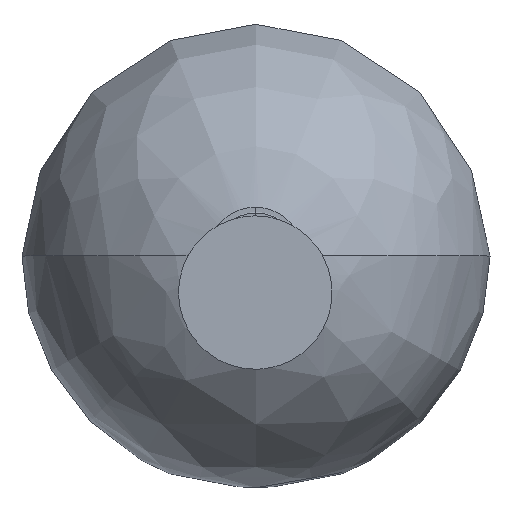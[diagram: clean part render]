
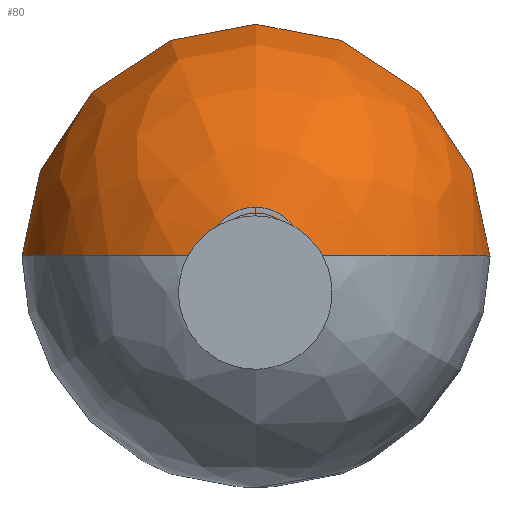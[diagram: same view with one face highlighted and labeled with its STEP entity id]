
A CAD part, top view. The second image highlights one B-rep face of the part: STEP entity #80.
In plain terms, the highlighted free-form (B-spline) face has degree [2, 2] with [5, 5] control points.
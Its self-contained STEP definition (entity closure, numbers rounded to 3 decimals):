
#80=ADVANCED_FACE($,(#111),#389,.T.);
#111=FACE_OUTER_BOUND($,#142,.T.);
#142=EDGE_LOOP($,(#236,#237,#238,#239));
#236=ORIENTED_EDGE($,*,*,#310,.T.);
#237=ORIENTED_EDGE($,*,*,#309,.F.);
#238=ORIENTED_EDGE($,*,*,#311,.T.);
#239=ORIENTED_EDGE($,*,*,#307,.F.);
#307=EDGE_CURVE($,#356,#357,#435,.T.);
#309=EDGE_CURVE($,#358,#355,#437,.T.);
#310=EDGE_CURVE($,#356,#355,#438,.T.);
#311=EDGE_CURVE($,#358,#357,#439,.T.);
#355=VERTEX_POINT($,#1170);
#356=VERTEX_POINT($,#1171);
#357=VERTEX_POINT($,#1172);
#358=VERTEX_POINT($,#1173);
#389=(
BOUNDED_SURFACE()
B_SPLINE_SURFACE(2,2,((#1144,#1145,#1146,#1147,#1148),(#1149,#1150,#1151,
#1152,#1153),(#1154,#1155,#1156,#1157,#1158),(#1159,#1160,#1161,#1162,#1163),
(#1164,#1165,#1166,#1167,#1168)),.UNSPECIFIED.,.F.,.F.,.F.)
B_SPLINE_SURFACE_WITH_KNOTS((3,2,3),(3,2,3),(0.,124.819,249.638),
(0.,249.638,499.276),.UNSPECIFIED.)
GEOMETRIC_REPRESENTATION_ITEM()
RATIONAL_B_SPLINE_SURFACE(((1.,0.811,1.,0.811,1.),
(0.707,0.574,0.707,0.574,
0.707),(1.,0.811,1.,0.811,1.),(0.707,
0.574,0.707,0.574,0.707),
(1.,0.811,1.,0.811,1.)))
REPRESENTATION_ITEM($)
SURFACE()
);
#435=(
BOUNDED_CURVE()
B_SPLINE_CURVE(2,(#1094,#1095,#1096,#1097,#1098),.UNSPECIFIED.,.F.,.F.)
B_SPLINE_CURVE_WITH_KNOTS((3,2,3),(0.,249.638,499.276),
.UNSPECIFIED.)
CURVE()
GEOMETRIC_REPRESENTATION_ITEM()
RATIONAL_B_SPLINE_CURVE((1.,0.811,1.,0.811,1.))
REPRESENTATION_ITEM($)
);
#437=(
BOUNDED_CURVE()
B_SPLINE_CURVE(2,(#1104,#1105,#1106,#1107,#1108),.UNSPECIFIED.,.F.,.F.)
B_SPLINE_CURVE_WITH_KNOTS((3,2,3),(-499.276,-249.638,0.),
.UNSPECIFIED.)
CURVE()
GEOMETRIC_REPRESENTATION_ITEM()
RATIONAL_B_SPLINE_CURVE((1.,0.811,1.,0.811,1.))
REPRESENTATION_ITEM($)
);
#438=(
BOUNDED_CURVE()
B_SPLINE_CURVE(2,(#1109,#1110,#1111,#1112,#1113),.UNSPECIFIED.,.F.,.F.)
B_SPLINE_CURVE_WITH_KNOTS((3,2,3),(0.,124.819,249.638),
.UNSPECIFIED.)
CURVE()
GEOMETRIC_REPRESENTATION_ITEM()
RATIONAL_B_SPLINE_CURVE((1.,0.707,1.,0.707,1.))
REPRESENTATION_ITEM($)
);
#439=(
BOUNDED_CURVE()
B_SPLINE_CURVE(2,(#1114,#1115,#1116,#1117,#1118),.UNSPECIFIED.,.F.,.F.)
B_SPLINE_CURVE_WITH_KNOTS((3,2,3),(-249.638,-124.819,0.),
.UNSPECIFIED.)
CURVE()
GEOMETRIC_REPRESENTATION_ITEM()
RATIONAL_B_SPLINE_CURVE((1.,0.707,1.,0.707,1.))
REPRESENTATION_ITEM($)
);
#1094=CARTESIAN_POINT($,(-36.,123.874,-541.879));
#1095=CARTESIAN_POINT($,(-177.735,123.874,-567.443));
#1096=CARTESIAN_POINT($,(-198.426,123.874,-709.97));
#1097=CARTESIAN_POINT($,(-219.117,123.874,-852.498));
#1098=CARTESIAN_POINT($,(-90.502,123.874,-917.309));
#1104=CARTESIAN_POINT($,(91.51,123.874,-917.309));
#1105=CARTESIAN_POINT($,(220.125,123.874,-852.498));
#1106=CARTESIAN_POINT($,(199.435,123.874,-709.97));
#1107=CARTESIAN_POINT($,(178.744,123.874,-567.443));
#1108=CARTESIAN_POINT($,(37.009,123.874,-541.879));
#1109=CARTESIAN_POINT($,(-36.,123.874,-541.879));
#1110=CARTESIAN_POINT($,(-36.,160.379,-541.879));
#1111=CARTESIAN_POINT($,(0.504,160.379,-541.879));
#1112=CARTESIAN_POINT($,(37.009,160.379,-541.879));
#1113=CARTESIAN_POINT($,(37.009,123.874,-541.879));
#1114=CARTESIAN_POINT($,(91.51,123.874,-917.309));
#1115=CARTESIAN_POINT($,(91.51,214.88,-917.309));
#1116=CARTESIAN_POINT($,(0.504,214.88,-917.309));
#1117=CARTESIAN_POINT($,(-90.502,214.88,-917.309));
#1118=CARTESIAN_POINT($,(-90.502,123.874,-917.309));
#1144=CARTESIAN_POINT($,(-36.,123.874,-541.879));
#1145=CARTESIAN_POINT($,(-177.735,123.874,-567.443));
#1146=CARTESIAN_POINT($,(-198.426,123.874,-709.97));
#1147=CARTESIAN_POINT($,(-219.117,123.874,-852.498));
#1148=CARTESIAN_POINT($,(-90.502,123.874,-917.309));
#1149=CARTESIAN_POINT($,(-36.,160.379,-541.879));
#1150=CARTESIAN_POINT($,(-177.735,302.114,-567.443));
#1151=CARTESIAN_POINT($,(-198.426,322.805,-709.97));
#1152=CARTESIAN_POINT($,(-219.117,343.496,-852.498));
#1153=CARTESIAN_POINT($,(-90.502,214.88,-917.309));
#1154=CARTESIAN_POINT($,(0.504,160.379,-541.879));
#1155=CARTESIAN_POINT($,(0.504,302.114,-567.443));
#1156=CARTESIAN_POINT($,(0.504,322.805,-709.97));
#1157=CARTESIAN_POINT($,(0.504,343.496,-852.498));
#1158=CARTESIAN_POINT($,(0.504,214.88,-917.309));
#1159=CARTESIAN_POINT($,(37.009,160.379,-541.879));
#1160=CARTESIAN_POINT($,(178.744,302.114,-567.443));
#1161=CARTESIAN_POINT($,(199.435,322.805,-709.97));
#1162=CARTESIAN_POINT($,(220.125,343.496,-852.498));
#1163=CARTESIAN_POINT($,(91.51,214.88,-917.309));
#1164=CARTESIAN_POINT($,(37.009,123.874,-541.879));
#1165=CARTESIAN_POINT($,(178.744,123.874,-567.443));
#1166=CARTESIAN_POINT($,(199.435,123.874,-709.97));
#1167=CARTESIAN_POINT($,(220.125,123.874,-852.498));
#1168=CARTESIAN_POINT($,(91.51,123.874,-917.309));
#1170=CARTESIAN_POINT($,(37.009,123.874,-541.879));
#1171=CARTESIAN_POINT($,(-36.,123.874,-541.879));
#1172=CARTESIAN_POINT($,(-90.502,123.874,-917.309));
#1173=CARTESIAN_POINT($,(91.51,123.874,-917.309));
